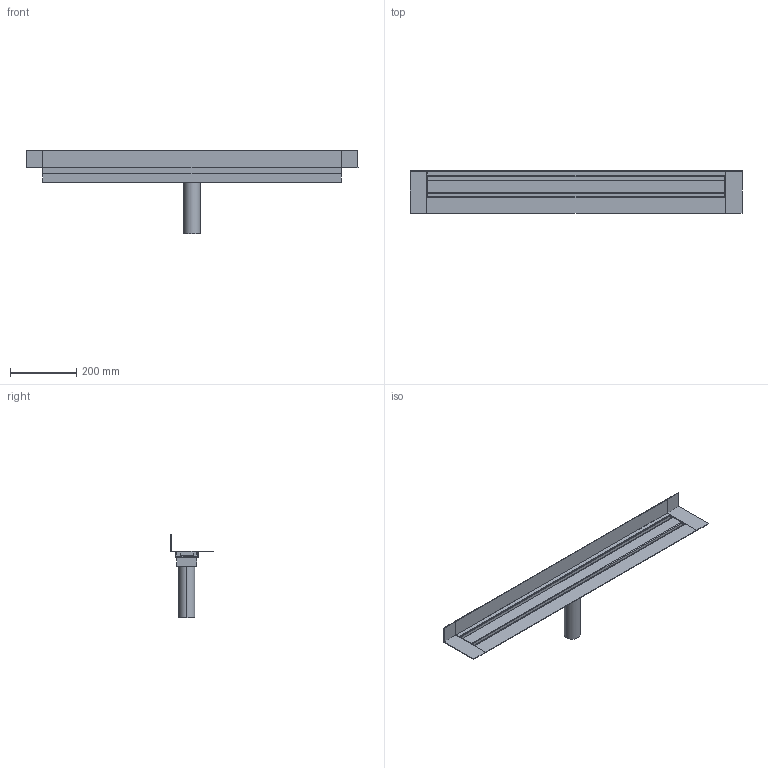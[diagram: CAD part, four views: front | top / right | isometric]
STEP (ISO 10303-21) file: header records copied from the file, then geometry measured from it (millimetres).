
FILE_DESCRIPTION(/* description */ (''),/* implementation_level */ '2;1');
FILE_NAME(/* name */ 'E:\Workspace\resitec\Packs\Kategorie\Entwässerungsrinne\STP\RS775KVDuschrinne verdeckt-1xZargeH-3xKRV+R+L.s.ipt.stp',/* time_stamp */ '2020-10-04T20:59:19+02:00',/* author */ ('ndmes'),/* organization */ (''),/* preprocessor_version */ 'ST-DEVELOPER v18.1',/* originating_system */ 'Autodesk Inventor 2021',/* authorisation */ '');
FILE_SCHEMA (('AUTOMOTIVE_DESIGN { 1 0 10303 214 3 1 1 }'));
Length unit declared in the file: millimetre
Products named in the file (1): RS775KVDuschrinne verdeckt-1xZargeH-3xKRV+R+L.s
Bounding box: 1000 x 128 x 250 mm (x, y, z)
Volume: 2906380.3 mm3; surface area: 713867.7 mm2
Topology: 15 solids, 15 shells, 102 faces, 216 edges, 144 vertices
Faces by surface type: plane 94, cylinder 8
Entity records: 2723 total; most frequent: CARTESIAN_POINT 463, DIRECTION 438, ORIENTED_EDGE 432, EDGE_CURVE 216, LINE 200, VECTOR 200, VERTEX_POINT 144, AXIS2_PLACEMENT_3D 119
